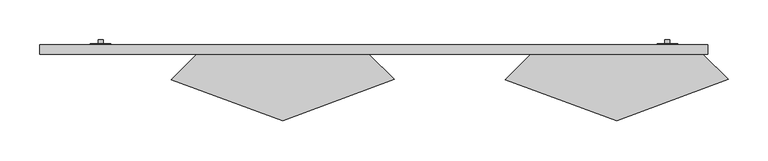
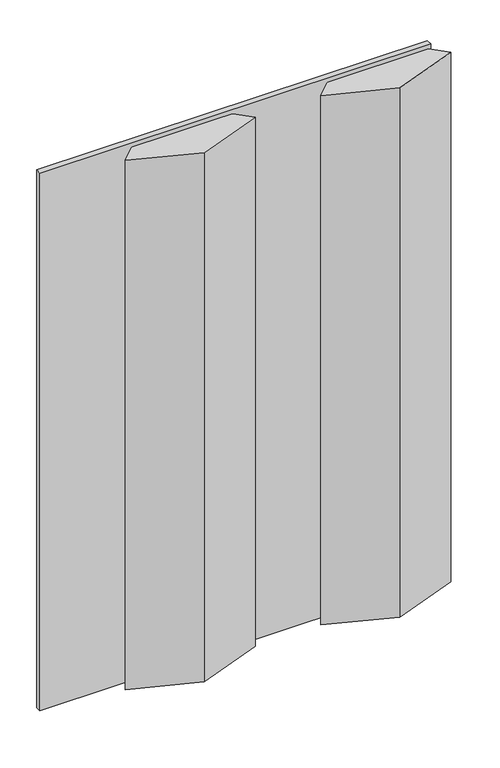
"""IFC4 building model written with IfcOpenShell, lengths in millimetres: proxy geometry, Arktura-SoundForm-Peak-RFA : Arktura-SoundForm-Peak-RFA."""

from ifc_helpers import new_model, si_unit, point, frame, frame_2d, origin, origin_with_axes, place, context, project, spatial, polyline, circle_curve, trimmed, segment, composite_curve, outline, extrude, source, transform, mapped, element, save


def generic_models_d3a28daf(model_context):
    return source(origin(), model_context, "Body", "SweptSolid", [
        extrude(outline(polyline([(558.8, -31.75), (533.4, -31.75), (533.4, -30.3215536), (558.8, -30.3215536), (558.8, -31.75)])), frame((0.0, 0.0, 1133.475), z_axis=(0.0, 0.0, 1.0), x_axis=(1.0, 0.0, 0.0)), (0.0, 0.0, 1.0), 25.4),
        extrude(outline(composite_curve([segment(trimmed(circle_curve(frame_2d((1146.175, 546.1)), 3.175), [point((1146.175, 542.925))], [point((1146.175, 549.275))], False, "CARTESIAN"), True, "CONTINUOUS"), segment(trimmed(circle_curve(frame_2d((1146.175, 546.1)), 3.175), [point((1146.175, 549.275))], [point((1146.175, 542.925))], False, "CARTESIAN"), True, "CONTINUOUS")], self_intersect=False)), frame((0.0, -30.3215536, 0.0), z_axis=(0.0, 1.0, 0.0), x_axis=(0.0, 0.0, 1.0)), (0.0, 0.0, 1.0), 4.9215536),
        extrude(outline(polyline([(-152.4, -31.75), (-177.8, -31.75), (-177.8, -30.3215536), (-152.4, -30.3215536), (-152.4, -31.75)])), frame((0.0, 0.0, 1133.475), z_axis=(0.0, 0.0, 1.0), x_axis=(1.0, 0.0, 0.0)), (0.0, 0.0, 1.0), 25.4),
        extrude(outline(composite_curve([segment(trimmed(circle_curve(frame_2d((1146.175, -165.1)), 3.175), [point((1146.175, -168.275))], [point((1146.175, -161.925))], False, "CARTESIAN"), True, "CONTINUOUS"), segment(trimmed(circle_curve(frame_2d((1146.175, -165.1)), 3.175), [point((1146.175, -161.925))], [point((1146.175, -168.275))], False, "CARTESIAN"), True, "CONTINUOUS")], self_intersect=False)), frame((0.0, -30.3215536, 0.0), z_axis=(0.0, 1.0, 0.0), x_axis=(0.0, 0.0, 1.0)), (0.0, 0.0, 1.0), 4.9215536),
        extrude(outline(polyline([(558.8, -31.75), (533.4, -31.75), (533.4, -30.3215536), (558.8, -30.3215536), (558.8, -31.75)])), frame((0.0, 0.0, 60.325), z_axis=(0.0, 0.0, 1.0), x_axis=(1.0, 0.0, 0.0)), (0.0, 0.0, 1.0), 25.4),
        extrude(outline(composite_curve([segment(trimmed(circle_curve(frame_2d((73.025, 546.1)), 3.175), [point((73.025, 542.925))], [point((73.025, 549.275))], False, "CARTESIAN"), True, "CONTINUOUS"), segment(trimmed(circle_curve(frame_2d((73.025, 546.1)), 3.175), [point((73.025, 549.275))], [point((73.025, 542.925))], False, "CARTESIAN"), True, "CONTINUOUS")], self_intersect=False)), frame((0.0, -30.3215536, 0.0), z_axis=(0.0, 1.0, 0.0), x_axis=(0.0, 0.0, 1.0)), (0.0, 0.0, 1.0), 4.9215536),
        extrude(outline(polyline([(-152.4, -31.75), (-177.8, -31.75), (-177.8, -30.3215536), (-152.4, -30.3215536), (-152.4, -31.75)])), frame((0.0, 0.0, 60.325), z_axis=(0.0, 0.0, 1.0), x_axis=(1.0, 0.0, 0.0)), (0.0, 0.0, 1.0), 25.4),
        extrude(outline(composite_curve([segment(trimmed(circle_curve(frame_2d((73.025, -165.1)), 3.175), [point((73.025, -168.275))], [point((73.025, -161.925))], False, "CARTESIAN"), True, "CONTINUOUS"), segment(trimmed(circle_curve(frame_2d((73.025, -165.1)), 3.175), [point((73.025, -161.925))], [point((73.025, -168.275))], False, "CARTESIAN"), True, "CONTINUOUS")], self_intersect=False)), frame((0.0, -30.3215536, 0.0), z_axis=(0.0, 1.0, 0.0), x_axis=(0.0, 0.0, 1.0)), (0.0, 0.0, 1.0), 4.9215536),
        extrude(outline(polyline([(-241.3, -43.749976), (-241.3, -31.75), (596.9, -31.75), (596.9, -43.749976), (-241.3, -43.749976)])), origin_with_axes(), (0.0, 0.0, 1.0), 1219.2),
        extrude(outline(polyline([(425.45, -43.7499999), (590.5500179, -43.7499999), (622.3, -74.9283805), (482.6, -127.0), (342.9, -75.499982), (374.6499821, -43.7499999), (425.45, -43.7499999)])), frame((0.0, 0.0, 9.525), z_axis=(0.0, 0.0, 1.0), x_axis=(1.0, 0.0, 0.0)), (0.0, 0.0, 1.0), 1200.15),
        extrude(outline(polyline([(6.35, -43.7499999), (171.4500179, -43.7499999), (203.2, -74.9283805), (63.5, -127.0), (-76.2, -75.499982), (-44.4500179, -43.7499999), (6.35, -43.7499999)])), frame((0.0, 0.0, 9.525), z_axis=(0.0, 0.0, 1.0), x_axis=(1.0, 0.0, 0.0)), (0.0, 0.0, 1.0), 1200.15),
    ])


if __name__ == "__main__":
    model = new_model("IFC4")
    model_context = context("Model", 3, world=origin())
    ifc_project = project(units=[si_unit("LENGTHUNIT", "METRE", prefix="MILLI")], contexts=[model_context])
    site = spatial("IfcSite", under=ifc_project)
    building = spatial("IfcBuilding", under=site)
    placement = place(None, origin())
    generic_models_shape = generic_models_d3a28daf(model_context)
    element("IfcBuildingElementProxy", 1, Name="Arktura-SoundForm-Peak-RFA : Arktura-SoundForm-Peak-RFA", ObjectType="Arktura-SoundForm-Peak-RFA : Arktura-SoundForm-Peak-RFA", at=placement, inside=building, context=model_context, shape_type="MappedRepresentation", body=[
        mapped(generic_models_shape, transform((0.0, 0.0, 0.0), x_axis=(1.0, 0.0, 0.0), y_axis=(0.0, 1.0, 0.0), z_axis=(0.0, 0.0, 1.0))),
    ])
    save(model, "model.ifc")
